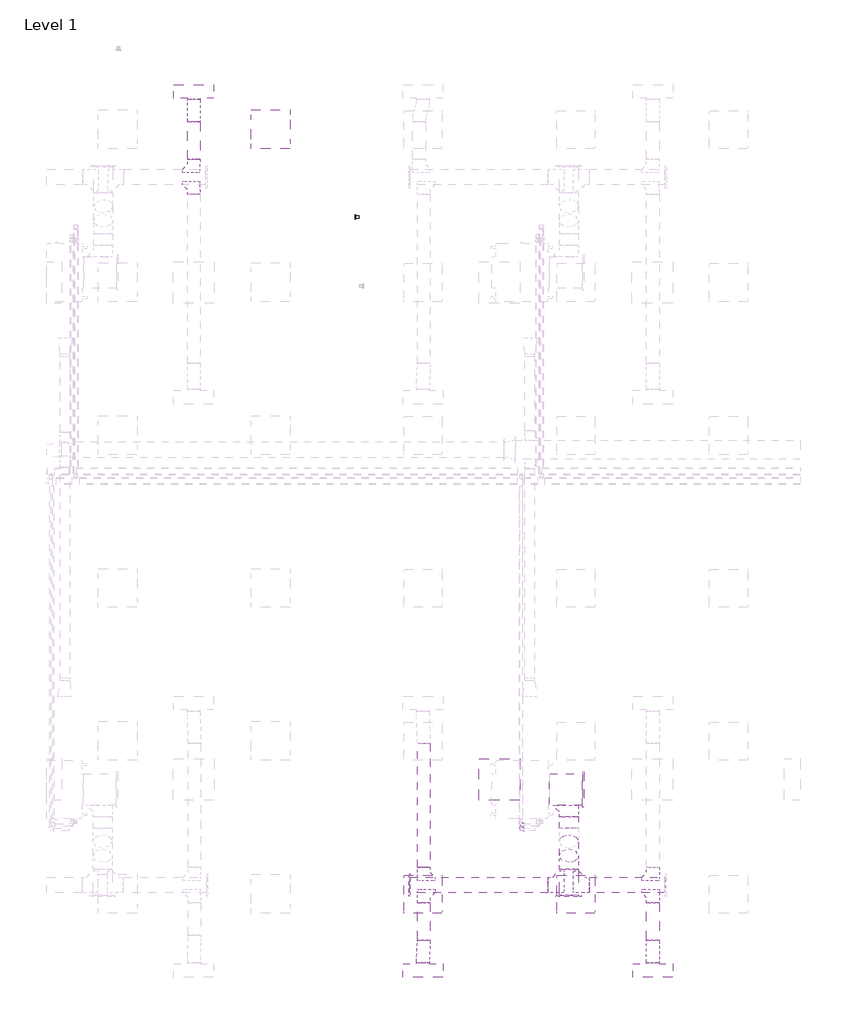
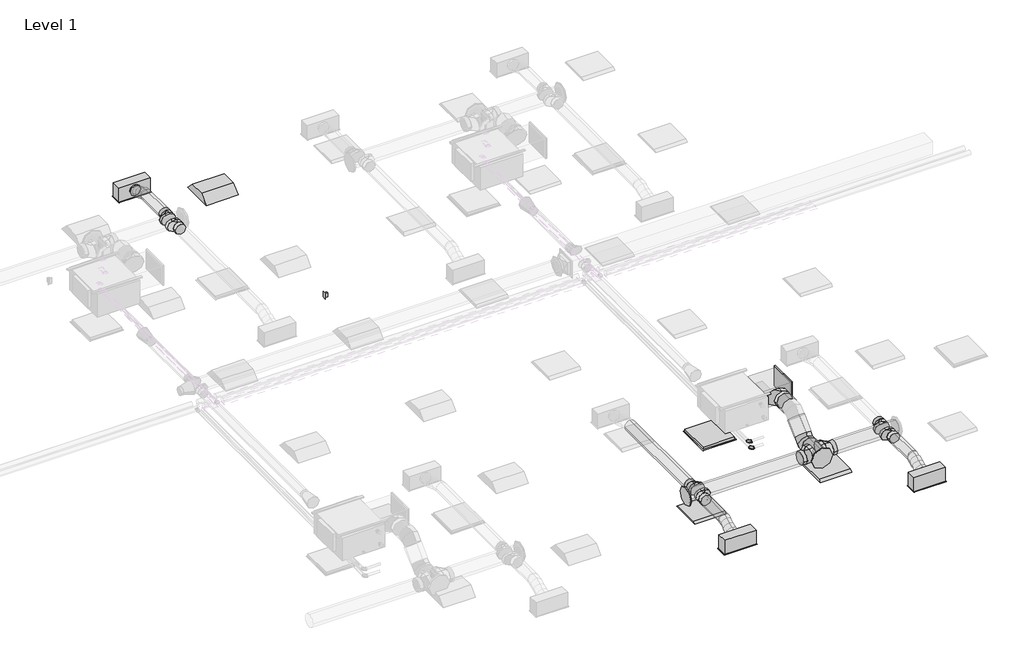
# One storey, part 6 of 30: 13 duct fittings, 13 duct segments, 4 air terminals, 3 light fixtures, 2 pipe fittings, 1 proxy.
"""IFC4 building model written with IfcOpenShell, lengths in millimetres."""

from ifc_helpers import new_model, si_unit, point, frame, frame_2d, origin, place, context, project, spatial, polyline, circle_curve, ellipse_curve, trimmed, segment, composite_curve, outline, extrude, transform, mapped, element, save
from ifc_brep_helpers import plane_surface, cylinder_surface, advanced_brep
from components import return_grille_rectangular_hosted_standard_7b12617c, supply_diffuser_with_plenum_linear_slot_hosted_2b730595, duplex_receptacle_standard_367a9a66, dw144_rectangular_blank_end_standard_8fde7d16, dw144_round_blank_end_standard_f82b0856, dw144_round_blank_end_standard_9aa061e7, dw144_round_segmented_bend_slip_joint_standard_8b80c5ae, dw144_round_shoe_branch_slip_joint1_standard_2_15a2edd8, dw144_round_shoe_branch_slip_joint1_standard_2_559552f4, dw144_round_shoe_branch_slip_joint1_standard_2_7ba9e4ed, dw144_round_shoe_branch_slip_joint1_standard_2_67b64720, light_fixture_1c7c1157, plain_recessed_lighting_fixture_2x2_277_de26a1e5, elbow_threaded_gmi_standard_b4aa7741

model = new_model("IFC4")

# Units and contexts
model_context = context("Model", 3, world=origin())
ifc_project = project(units=[si_unit("LENGTHUNIT", "METRE", prefix="MILLI")], contexts=[model_context])

# Site, building, storey
site = spatial("IfcSite", under=ifc_project)
building = spatial("IfcBuilding", under=site)
storey = spatial("IfcBuildingStorey", under=building, Name="Level 1", Elevation=3900.0)

# Air terminals
placement = place(None, origin())
return_grille_rectangular_hosted_standard_shape = return_grille_rectangular_hosted_standard_7b12617c(model_context)
element("IfcAirTerminal", 1, ObjectType="Return Grille - Rectangular - Hosted : Standard", at=placement, inside=storey, context=model_context, shape_type="MappedRepresentation", body=[
    mapped(return_grille_rectangular_hosted_standard_shape, transform((17562.2000027, 3963.2000004, 6700.0), x_axis=(1.0, 0.0, 0.0), y_axis=(0.0, -1.0, 0.0), z_axis=(0.0, 0.0, -1.0))),
])
supply_diffuser_with_plenum_linear_slot_hosted_shape = supply_diffuser_with_plenum_linear_slot_hosted_2b730595(model_context)
element("IfcAirTerminal", 2, ObjectType="Supply Diffuser with Plenum - Linear Slot - Hosted : 24\" x 8\"-200 In Inlet  4-Slot", at=placement, inside=storey, context=model_context, shape_type="MappedRepresentation", body=[
    mapped(supply_diffuser_with_plenum_linear_slot_hosted_shape, transform((16362.2000027, 963.2000004, 6700.0), x_axis=(1.0, 0.0, 0.0), y_axis=(0.0, -1.0, 0.0), z_axis=(0.0, 0.0, -1.0))),
])
element("IfcAirTerminal", 3, ObjectType="Supply Diffuser with Plenum - Linear Slot - Hosted : 24\" x 8\"-200 In Inlet  4-Slot", at=placement, inside=storey, context=model_context, shape_type="MappedRepresentation", body=[
    mapped(supply_diffuser_with_plenum_linear_slot_hosted_shape, transform((19973.9000022, 963.2000004, 6700.0), x_axis=(1.0, 0.0, 0.0), y_axis=(0.0, -1.0, 0.0), z_axis=(0.0, 0.0, -1.0))),
])
element("IfcAirTerminal", 4, ObjectType="Supply Diffuser with Plenum - Linear Slot - Hosted : 24\" x 8\"-200 In Inlet  4-Slot", at=placement, inside=storey, context=model_context, shape_type="MappedRepresentation", body=[
    mapped(supply_diffuser_with_plenum_linear_slot_hosted_shape, transform((12762.2000027, 14763.2000004, 6700.0), x_axis=(-1.0, 0.0, 0.0), y_axis=(0.0, 1.0, 0.0), z_axis=(0.0, 0.0, -1.0))),
])

# Proxy
duplex_receptacle_standard_shape = duplex_receptacle_standard_367a9a66(model_context)
element("IfcBuildingElementProxy", 5, Name="Duplex Receptacle : Standard", ObjectType="Duplex Receptacle : Standard", at=placement, inside=storey, context=model_context, shape_type="MappedRepresentation", body=[
    mapped(duplex_receptacle_standard_shape, transform((15302.2000024, 12793.416336, 4966.8), x_axis=(0.0, -1.0, 0.0), y_axis=(0.0, 0.0, 1.0), z_axis=(-1.0, 0.0, 0.0))),
])

# Duct fittings
dw144_rectangular_blank_end_standard_shape = dw144_rectangular_blank_end_standard_8fde7d16(model_context)
element("IfcDuctFitting", 6, ObjectType="DW144 Rectangular Blank End : Standard", at=placement, inside=storey, context=model_context, shape_type="MappedRepresentation", body=[
    mapped(dw144_rectangular_blank_end_standard_shape, transform((18866.2561025, 3806.0000004, 7376.3911538), x_axis=(1.0, 0.0, 0.0), y_axis=(0.0, 1.0, 0.0), z_axis=(0.0, 0.0, 1.0))),
])
dw144_round_blank_end_standard_shape = dw144_round_blank_end_standard_f82b0856(model_context)
element("IfcDuctFitting", 7, ObjectType="DW144 Round Blank End : Standard", at=placement, inside=storey, context=model_context, shape_type="MappedRepresentation", body=[
    mapped(dw144_round_blank_end_standard_shape, transform((18651.4561025, 2142.9916128, 6972.2088531), x_axis=(0.0, -1.0, 0.0), y_axis=(1.0, 0.0, 0.0), z_axis=(0.0, 0.0, 1.0))),
])
dw144_round_blank_end_standard_2_shape = dw144_round_blank_end_standard_9aa061e7(model_context)
element("IfcDuctFitting", 8, ObjectType="DW144 Round Blank End : Standard", at=placement, inside=storey, context=model_context, shape_type="MappedRepresentation", body=[
    mapped(dw144_round_blank_end_standard_2_shape, transform((16161.4561025, 2306.5018192, 6972.2088531), x_axis=(-1.0, 0.0, 0.0), y_axis=(0.0, -1.0, 0.0), z_axis=(0.0, 0.0, 1.0))),
])
dw144_round_segmented_bend_slip_joint_standard_shape = dw144_round_segmented_bend_slip_joint_standard_8b80c5ae(model_context)
element("IfcDuctFitting", 9, ObjectType="DW144 Round Segmented Bend - Slip Joint : Standard", at=placement, inside=storey, context=model_context, shape_type="MappedRepresentation", body=[
    mapped(dw144_round_segmented_bend_slip_joint_standard_shape, transform((18651.4561025, 2678.6338536, 6972.2088531), x_axis=(0.0, -0.7071067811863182, -0.7071067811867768), y_axis=(0.0, 0.7071067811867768, -0.7071067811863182), z_axis=(1.0, 0.0, 0.0))),
])
dw144_round_shoe_branch_slip_joint1_standard_2_shape = dw144_round_shoe_branch_slip_joint1_standard_2_15a2edd8(model_context)
element("IfcDuctFitting", 10, ObjectType="DW144 Round Shoe Branch - Slip Joint1 : Standard 2", at=placement, inside=storey, context=model_context, shape_type="MappedRepresentation", body=[
    mapped(dw144_round_shoe_branch_slip_joint1_standard_2_shape, transform((12762.2000027, 13544.8981817, 6972.2088531), x_axis=(0.0, 1.0, 0.0), y_axis=(1.0, 0.0, 0.0), z_axis=(0.0, 0.0, -1.0))),
])
element("IfcDuctFitting", 11, ObjectType="DW144 Round Shoe Branch - Slip Joint1 : Standard 2", at=placement, inside=storey, context=model_context, shape_type="MappedRepresentation", body=[
    mapped(dw144_round_shoe_branch_slip_joint1_standard_2_shape, transform((12762.2000027, 13294.8981817, 6972.2088531), x_axis=(0.0, -1.0, 0.0), y_axis=(1.0, 0.0, 0.0), z_axis=(0.0, 0.0, 1.0))),
])
element("IfcDuctFitting", 12, ObjectType="DW144 Round Shoe Branch - Slip Joint1 : Standard 2", at=placement, inside=storey, context=model_context, shape_type="MappedRepresentation", body=[
    mapped(dw144_round_shoe_branch_slip_joint1_standard_2_shape, transform((16373.9000022, 2181.5018192, 6972.2088531), x_axis=(0.0, -1.0, 0.0), y_axis=(-1.0, 0.0, 0.0), z_axis=(0.0, 0.0, -1.0))),
])
element("IfcDuctFitting", 13, ObjectType="DW144 Round Shoe Branch - Slip Joint1 : Standard 2", at=placement, inside=storey, context=model_context, shape_type="MappedRepresentation", body=[
    mapped(dw144_round_shoe_branch_slip_joint1_standard_2_shape, transform((16373.9000022, 2431.5018192, 6972.2088531), x_axis=(0.0, 1.0, 0.0), y_axis=(-1.0, 0.0, 0.0), z_axis=(0.0, 0.0, 1.0))),
])
dw144_round_shoe_branch_slip_joint1_standard_2_2_shape = dw144_round_shoe_branch_slip_joint1_standard_2_559552f4(model_context)
element("IfcDuctFitting", 14, ObjectType="DW144 Round Shoe Branch - Slip Joint1 : Standard 2", at=placement, inside=storey, context=model_context, shape_type="MappedRepresentation", body=[
    mapped(dw144_round_shoe_branch_slip_joint1_standard_2_2_shape, transform((19973.9000022, 2181.5018192, 6972.2088531), x_axis=(0.0, -1.0, 0.0), y_axis=(-1.0, 0.0, 0.0), z_axis=(0.0, 0.0, -1.0))),
])
element("IfcDuctFitting", 15, ObjectType="DW144 Round Shoe Branch - Slip Joint1 : Standard 2", at=placement, inside=storey, context=model_context, shape_type="MappedRepresentation", body=[
    mapped(dw144_round_shoe_branch_slip_joint1_standard_2_2_shape, transform((19973.9000022, 2431.5018192, 6972.2088531), x_axis=(0.0, 1.0, 0.0), y_axis=(-1.0, 0.0, 0.0), z_axis=(0.0, 0.0, 1.0))),
])
dw144_round_shoe_branch_slip_joint1_standard_2_3_shape = dw144_round_shoe_branch_slip_joint1_standard_2_7ba9e4ed(model_context)
element("IfcDuctFitting", 16, ObjectType="DW144 Round Shoe Branch - Slip Joint1 : Standard 2", at=placement, inside=storey, context=model_context, shape_type="MappedRepresentation", body=[
    mapped(dw144_round_shoe_branch_slip_joint1_standard_2_3_shape, transform((18651.4561025, 3556.0000004, 7369.575), x_axis=(0.0, -1.0, 0.0), y_axis=(-1.0, 0.0, 0.0), z_axis=(0.0, 0.0, -1.0))),
])
dw144_round_shoe_branch_slip_joint1_standard_2_4_shape = dw144_round_shoe_branch_slip_joint1_standard_2_67b64720(model_context)
element("IfcDuctFitting", 17, ObjectType="DW144 Round Shoe Branch - Slip Joint1 : Standard 2", at=placement, inside=storey, context=model_context, shape_type="MappedRepresentation", body=[
    mapped(dw144_round_shoe_branch_slip_joint1_standard_2_4_shape, transform((18801.4561025, 2306.5018192, 6972.2088531), x_axis=(1.0, 0.0, 0.0), y_axis=(0.0, -1.0, 0.0), z_axis=(0.0, 0.0, -1.0))),
])
element("IfcDuctFitting", 18, ObjectType="DW144 Round Shoe Branch - Slip Joint1 : Standard 2", at=placement, inside=storey, context=model_context, shape_type="MappedRepresentation", body=[
    mapped(dw144_round_shoe_branch_slip_joint1_standard_2_4_shape, transform((18501.4561025, 2306.5018192, 6972.2088531), x_axis=(-1.0, 0.0, 0.0), y_axis=(0.0, -1.0, 0.0), z_axis=(0.0, 0.0, 1.0))),
])

# Duct segments
element("IfcDuctSegment", 19, ObjectType="DW144 Flanged Med Radius Bend / Shoe Branch", at=placement, inside=storey, context=model_context, shape_type="SweptSolid", body=[
    extrude(outline(polyline([(18346.6561025, 3556.0000004), (18346.6561025, 4056.0000004), (18866.2561025, 4056.0000004), (18866.2561025, 3556.0000004), (18346.6561025, 3556.0000004)])), frame((0.0, 0.0, 7201.3911538), z_axis=(0.0, 0.0, 1.0), x_axis=(1.0, 0.0, 0.0)), (0.0, 0.0, 1.0), 350.0),
])
element("IfcDuctSegment", 20, ObjectType="DW144 Segmented Bend / Shoe Branch", at=placement, inside=storey, context=model_context, shape_type="SweptSolid", body=[
    extrude(outline(composite_curve([segment(trimmed(circle_curve(frame_2d((6972.2088531, 12762.2000027)), 100.0), [point((6972.2088531, 12862.2000027))], [point((7072.2088531, 12762.2000027))], False, "CARTESIAN"), True, "CONTINUOUS"), segment(trimmed(circle_curve(frame_2d((6972.2088531, 12762.2000027)), 100.0), [point((7072.2088531, 12762.2000027))], [point((6972.2088531, 12662.2000027))], False, "CARTESIAN"), True, "CONTINUOUS"), segment(trimmed(circle_curve(frame_2d((6972.2088531, 12762.2000027)), 100.0), [point((6972.2088531, 12662.2000027))], [point((6872.2088531, 12762.2000027))], False, "CARTESIAN"), True, "CONTINUOUS"), segment(trimmed(circle_curve(frame_2d((6972.2088531, 12762.2000027)), 100.0), [point((6872.2088531, 12762.2000027))], [point((6972.2088531, 12862.2000027))], False, "CARTESIAN"), True, "CONTINUOUS")], self_intersect=False)), frame((0.0, 13694.8981817, 0.0), z_axis=(0.0, 1.0, 0.0), x_axis=(0.0, 0.0, 1.0)), (0.0, 0.0, 1.0), 590.0),
])
element("IfcDuctSegment", 21, ObjectType="DW144 Segmented Bend / Shoe Branch", at=placement, inside=storey, context=model_context, shape_type="SweptSolid", body=[
    extrude(outline(composite_curve([segment(trimmed(circle_curve(frame_2d((7369.575, 18651.4561025)), 150.0), [point((7369.575, 18501.4561025))], [point((7219.575, 18651.4561025))], False, "CARTESIAN"), True, "CONTINUOUS"), segment(trimmed(circle_curve(frame_2d((7369.575, 18651.4561025)), 150.0), [point((7219.575, 18651.4561025))], [point((7369.575, 18801.4561025))], False, "CARTESIAN"), True, "CONTINUOUS"), segment(trimmed(circle_curve(frame_2d((7369.575, 18651.4561025)), 150.0), [point((7369.575, 18801.4561025))], [point((7519.575, 18651.4561025))], False, "CARTESIAN"), True, "CONTINUOUS"), segment(trimmed(circle_curve(frame_2d((7369.575, 18651.4561025)), 150.0), [point((7519.575, 18651.4561025))], [point((7369.575, 18501.4561025))], False, "CARTESIAN"), True, "CONTINUOUS")], self_intersect=False)), frame((0.0, 3200.2640691, 0.0), z_axis=(0.0, 1.0, 0.0), x_axis=(0.0, 0.0, 1.0)), (0.0, 0.0, 1.0), 180.7359313),
])
element("IfcDuctSegment", 22, ObjectType="DW144 Segmented Bend / Shoe Branch", at=placement, inside=storey, context=model_context, shape_type="SweptSolid", body=[
    extrude(outline(composite_curve([segment(trimmed(circle_curve(frame_2d((6972.2088531, 18651.4561025)), 150.0), [point((6972.2088531, 18501.4561025))], [point((6822.2088531, 18651.4561025))], False, "CARTESIAN"), True, "CONTINUOUS"), segment(trimmed(circle_curve(frame_2d((6972.2088531, 18651.4561025)), 150.0), [point((6822.2088531, 18651.4561025))], [point((6972.2088531, 18801.4561025))], False, "CARTESIAN"), True, "CONTINUOUS"), segment(trimmed(circle_curve(frame_2d((6972.2088531, 18651.4561025)), 150.0), [point((6972.2088531, 18801.4561025))], [point((7122.2088531, 18651.4561025))], False, "CARTESIAN"), True, "CONTINUOUS"), segment(trimmed(circle_curve(frame_2d((6972.2088531, 18651.4561025)), 150.0), [point((7122.2088531, 18651.4561025))], [point((6972.2088531, 18501.4561025))], False, "CARTESIAN"), True, "CONTINUOUS")], self_intersect=False)), frame((0.0, 2142.9916128, 0.0), z_axis=(0.0, 1.0, 0.0), x_axis=(0.0, 0.0, 1.0)), (0.0, 0.0, 1.0), 411.3781721),
])
element("IfcDuctSegment", 23, ObjectType="DW144 Segmented Bend / Shoe Branch", at=placement, inside=storey, context=model_context, shape_type="SweptSolid", body=[
    extrude(outline(composite_curve([segment(trimmed(circle_curve(frame_2d((0.0, -150.0)), 150.0), [point((-150.0, -150.0))], [point((0.0, 0.0))], False, "CARTESIAN"), True, "CONTINUOUS"), segment(trimmed(circle_curve(frame_2d((0.0, -150.0)), 150.0), [point((0.0, 0.0))], [point((150.0, -150.0))], False, "CARTESIAN"), True, "CONTINUOUS"), segment(trimmed(circle_curve(frame_2d((0.0, -150.0)), 150.0), [point((150.0, -150.0))], [point((0.0, -300.0))], False, "CARTESIAN"), True, "CONTINUOUS"), segment(trimmed(circle_curve(frame_2d((0.0, -150.0)), 150.0), [point((0.0, -300.0))], [point((-150.0, -150.0))], False, "CARTESIAN"), True, "CONTINUOUS")], self_intersect=False)), frame((18651.4561025, 2872.5678364, 6954.0108016), z_axis=(0.0, 0.7071067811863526, 0.7071067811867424), x_axis=(1.0, 0.0, 0.0)), (0.0, 0.0, 1.0), 313.4324567),
])
element("IfcDuctSegment", 24, ObjectType="DW144 Segmented Bend / Shoe Branch", at=placement, inside=storey, context=model_context, shape_type="SweptSolid", body=[
    extrude(outline(composite_curve([segment(trimmed(circle_curve(frame_2d((2306.5018192, 6972.2088531)), 125.0), [point((2181.5018192, 6972.2088531))], [point((2306.5018192, 7097.2088531))], False, "CARTESIAN"), True, "CONTINUOUS"), segment(trimmed(circle_curve(frame_2d((2306.5018192, 6972.2088531)), 125.0), [point((2306.5018192, 7097.2088531))], [point((2431.5018192, 6972.2088531))], False, "CARTESIAN"), True, "CONTINUOUS"), segment(trimmed(circle_curve(frame_2d((2306.5018192, 6972.2088531)), 125.0), [point((2431.5018192, 6972.2088531))], [point((2306.5018192, 6847.2088531))], False, "CARTESIAN"), True, "CONTINUOUS"), segment(trimmed(circle_curve(frame_2d((2306.5018192, 6972.2088531)), 125.0), [point((2306.5018192, 6847.2088531))], [point((2181.5018192, 6972.2088531))], False, "CARTESIAN"), True, "CONTINUOUS")], self_intersect=False)), frame((18976.4561025, 0.0, 0.0), z_axis=(1.0, 0.0, 0.0), x_axis=(0.0, 1.0, 0.0)), (0.0, 0.0, 1.0), 1185.0),
])
element("IfcDuctSegment", 25, ObjectType="DW144 Segmented Bend / Shoe Branch", at=placement, inside=storey, context=model_context, shape_type="SweptSolid", body=[
    extrude(outline(composite_curve([segment(trimmed(circle_curve(frame_2d((2306.5018192, 6972.2088531)), 125.0), [point((2431.5018192, 6972.2088531))], [point((2306.5018192, 6847.2088531))], False, "CARTESIAN"), True, "CONTINUOUS"), segment(trimmed(circle_curve(frame_2d((2306.5018192, 6972.2088531)), 125.0), [point((2306.5018192, 6847.2088531))], [point((2181.5018192, 6972.2088531))], False, "CARTESIAN"), True, "CONTINUOUS"), segment(trimmed(circle_curve(frame_2d((2306.5018192, 6972.2088531)), 125.0), [point((2181.5018192, 6972.2088531))], [point((2306.5018192, 7097.2088531))], False, "CARTESIAN"), True, "CONTINUOUS"), segment(trimmed(circle_curve(frame_2d((2306.5018192, 6972.2088531)), 125.0), [point((2306.5018192, 7097.2088531))], [point((2431.5018192, 6972.2088531))], False, "CARTESIAN"), True, "CONTINUOUS")], self_intersect=False)), frame((16161.4561025, 0.0, 0.0), z_axis=(1.0, 0.0, 0.0), x_axis=(0.0, 1.0, 0.0)), (0.0, 0.0, 1.0), 2165.0),
])
element("IfcDuctSegment", 26, ObjectType="DW144 Segmented Bend / Shoe Branch", at=placement, inside=storey, context=model_context, shape_type="SweptSolid", body=[
    extrude(outline(composite_curve([segment(trimmed(circle_curve(frame_2d((6972.2088531, 19973.9000022)), 100.0), [point((6972.2088531, 19873.9000022))], [point((6872.2088531, 19973.9000022))], False, "CARTESIAN"), True, "CONTINUOUS"), segment(trimmed(circle_curve(frame_2d((6972.2088531, 19973.9000022)), 100.0), [point((6872.2088531, 19973.9000022))], [point((6972.2088531, 20073.9000022))], False, "CARTESIAN"), True, "CONTINUOUS"), segment(trimmed(circle_curve(frame_2d((6972.2088531, 19973.9000022)), 100.0), [point((6972.2088531, 20073.9000022))], [point((7072.2088531, 19973.9000022))], False, "CARTESIAN"), True, "CONTINUOUS"), segment(trimmed(circle_curve(frame_2d((6972.2088531, 19973.9000022)), 100.0), [point((7072.2088531, 19973.9000022))], [point((6972.2088531, 19873.9000022))], False, "CARTESIAN"), True, "CONTINUOUS")], self_intersect=False)), frame((0.0, 1441.5018192, 0.0), z_axis=(0.0, 1.0, 0.0), x_axis=(0.0, 0.0, 1.0)), (0.0, 0.0, 1.0), 590.0),
])
element("IfcDuctSegment", 27, ObjectType="DW144 Segmented Bend / Shoe Branch", at=placement, inside=storey, context=model_context, shape_type="SweptSolid", body=[
    extrude(outline(composite_curve([segment(trimmed(circle_curve(frame_2d((6972.2088531, 16373.9000022)), 100.0), [point((6972.2088531, 16473.9000022))], [point((7072.2088531, 16373.9000022))], False, "CARTESIAN"), True, "CONTINUOUS"), segment(trimmed(circle_curve(frame_2d((6972.2088531, 16373.9000022)), 100.0), [point((7072.2088531, 16373.9000022))], [point((6972.2088531, 16273.9000022))], False, "CARTESIAN"), True, "CONTINUOUS"), segment(trimmed(circle_curve(frame_2d((6972.2088531, 16373.9000022)), 100.0), [point((6972.2088531, 16273.9000022))], [point((6872.2088531, 16373.9000022))], False, "CARTESIAN"), True, "CONTINUOUS"), segment(trimmed(circle_curve(frame_2d((6972.2088531, 16373.9000022)), 100.0), [point((6872.2088531, 16373.9000022))], [point((6972.2088531, 16473.9000022))], False, "CARTESIAN"), True, "CONTINUOUS")], self_intersect=False)), frame((0.0, 1441.5018192, 0.0), z_axis=(0.0, 1.0, 0.0), x_axis=(0.0, 0.0, 1.0)), (0.0, 0.0, 1.0), 590.0),
])
element("IfcDuctSegment", 28, ObjectType="DW144 Segmented Bend / Shoe Branch", at=placement, inside=storey, context=model_context, shape_type="SweptSolid", body=[
    extrude(outline(composite_curve([segment(trimmed(circle_curve(frame_2d((6972.2088531, 16373.9000022)), 100.0), [point((6972.2088531, 16473.9000022))], [point((7072.2088531, 16373.9000022))], False, "CARTESIAN"), True, "CONTINUOUS"), segment(trimmed(circle_curve(frame_2d((6972.2088531, 16373.9000022)), 100.0), [point((7072.2088531, 16373.9000022))], [point((6972.2088531, 16273.9000022))], False, "CARTESIAN"), True, "CONTINUOUS"), segment(trimmed(circle_curve(frame_2d((6972.2088531, 16373.9000022)), 100.0), [point((6972.2088531, 16273.9000022))], [point((6872.2088531, 16373.9000022))], False, "CARTESIAN"), True, "CONTINUOUS"), segment(trimmed(circle_curve(frame_2d((6972.2088531, 16373.9000022)), 100.0), [point((6872.2088531, 16373.9000022))], [point((6972.2088531, 16473.9000022))], False, "CARTESIAN"), True, "CONTINUOUS")], self_intersect=False)), frame((0.0, 2581.5018192, 0.0), z_axis=(0.0, 1.0, 0.0), x_axis=(0.0, 0.0, 1.0)), (0.0, 0.0, 1.0), 1950.0),
])
element("IfcDuctSegment", 29, ObjectType="Flex - Round", at=placement, inside=storey, context=model_context, shape_type="AdvancedBrep", body=[
    advanced_brep(
    [(12662.2000027, 14284.8981817, 6972.2088531), (12762.2000027, 14284.8981817, 6872.2088531), (12862.2000027, 14284.8981817, 6972.2088531), (12762.2000027, 14284.8981817, 7072.2088531), (12662.2000027, 14305.016086, 6972.2088531), (12762.2000027, 14291.9994573, 6872.2088531), (12862.2000027, 14305.016086, 6972.2088531), (12762.2000027, 14318.0327147, 7072.2088531), (12662.2000027, 14636.2000004, 6854.4), (12762.2000027, 14636.2000004, 6954.4), (12862.2000027, 14636.2000004, 6854.4), (12762.2000027, 14636.2000004, 6754.4), (12662.2000027, 14374.5262041, 6953.8012198), (12762.2000027, 14340.1488087, 6859.4579669), (12862.2000027, 14374.5262041, 6953.8012198), (12762.2000027, 14408.9035994, 7048.1444727), (12662.2000027, 14460.549091, 6913.3044266), (12762.2000027, 14417.9560975, 6822.8288116), (12862.2000027, 14460.549091, 6913.3044266), (12762.2000027, 14503.1420846, 7003.7800415), (12662.2000027, 14546.571978, 6872.8076333), (12762.2000027, 14512.1945826, 6778.4643804), (12862.2000027, 14546.571978, 6872.8076333), (12762.2000027, 14580.9493734, 6967.1508862), (12662.2000027, 14616.0820961, 6854.4), (12762.2000027, 14603.0654674, 6754.4), (12862.2000027, 14616.0820961, 6854.4), (12762.2000027, 14629.0987248, 6954.4)],
    [
        (0, 1, circle_curve(frame((12762.2000027, 14284.8981817, 6972.2088531), z_axis=(0.0, -1.0, 0.0), x_axis=(-1.0, 0.0, 0.0)), 100.0)),
        (1, 2, circle_curve(frame((12762.2000027, 14284.8981817, 6972.2088531), z_axis=(0.0, -1.0, 0.0), x_axis=(-1.0, 0.0, 0.0)), 100.0)),
        (2, 3, circle_curve(frame((12762.2000027, 14284.8981817, 6972.2088531), z_axis=(0.0, -1.0, 0.0), x_axis=(-1.0, 0.0, 0.0)), 100.0)),
        (3, 0, circle_curve(frame((12762.2000027, 14284.8981817, 6972.2088531), z_axis=(0.0, -1.0, 0.0), x_axis=(-1.0, 0.0, 0.0)), 100.0)),
        (0, 4),
        (4, 5, ellipse_curve(frame((12762.2000027, 14305.016086, 6972.2088531), z_axis=(0.0, -0.9916345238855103, 0.12907738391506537), x_axis=(0.0, -0.1290773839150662, -0.9916345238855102)), 100.8436048, 100.0)),
        (5, 1),
        (5, 6, ellipse_curve(frame((12762.2000027, 14305.016086, 6972.2088531), z_axis=(0.0, -0.9916345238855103, 0.12907738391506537), x_axis=(0.0, -0.1290773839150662, -0.9916345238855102)), 100.8436048, 100.0)),
        (6, 2),
        (6, 7, ellipse_curve(frame((12762.2000027, 14305.016086, 6972.2088531), z_axis=(0.0, -0.9916345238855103, 0.12907738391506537), x_axis=(0.0, -0.1290773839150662, -0.9916345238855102)), 100.8436048, 100.0)),
        (7, 3),
        (7, 4, ellipse_curve(frame((12762.2000027, 14305.016086, 6972.2088531), z_axis=(0.0, -0.9916345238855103, 0.12907738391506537), x_axis=(0.0, -0.1290773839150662, -0.9916345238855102)), 100.8436048, 100.0)),
        (8, 9, circle_curve(frame((12762.2000027, 14636.2000004, 6854.4), z_axis=(0.0, 1.0, 0.0), x_axis=(-1.0, 0.0, 0.0)), 100.0)),
        (9, 10, circle_curve(frame((12762.2000027, 14636.2000004, 6854.4), z_axis=(0.0, 1.0, 0.0), x_axis=(-1.0, 0.0, 0.0)), 100.0)),
        (10, 11, circle_curve(frame((12762.2000027, 14636.2000004, 6854.4), z_axis=(0.0, 1.0, 0.0), x_axis=(-1.0, 0.0, 0.0)), 100.0)),
        (11, 8, circle_curve(frame((12762.2000027, 14636.2000004, 6854.4), z_axis=(0.0, 1.0, 0.0), x_axis=(-1.0, 0.0, 0.0)), 100.0)),
        (4, 12),
        (12, 13, ellipse_curve(frame((12762.2000027, 14374.5262041, 6953.8012198), z_axis=(0.0, -0.9395668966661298, 0.3423653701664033), x_axis=(0.0, -0.34236537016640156, -0.9395668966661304)), 100.411427, 100.0)),
        (13, 5),
        (13, 14, ellipse_curve(frame((12762.2000027, 14374.5262041, 6953.8012198), z_axis=(0.0, -0.9395668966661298, 0.3423653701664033), x_axis=(0.0, -0.34236537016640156, -0.9395668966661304)), 100.411427, 100.0)),
        (14, 6),
        (14, 15, ellipse_curve(frame((12762.2000027, 14374.5262041, 6953.8012198), z_axis=(0.0, -0.9395668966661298, 0.3423653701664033), x_axis=(0.0, -0.34236537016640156, -0.9395668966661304)), 100.411427, 100.0)),
        (15, 7),
        (15, 12, ellipse_curve(frame((12762.2000027, 14374.5262041, 6953.8012198), z_axis=(0.0, -0.9395668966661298, 0.3423653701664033), x_axis=(0.0, -0.34236537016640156, -0.9395668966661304)), 100.411427, 100.0)),
        (12, 16),
        (16, 17, circle_curve(frame((12762.2000027, 14460.549091, 6913.3044266), z_axis=(0.0, -0.9047561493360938, 0.42592993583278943), x_axis=(-1.0, 0.0, 0.0)), 100.0)),
        (17, 13),
        (17, 18, circle_curve(frame((12762.2000027, 14460.549091, 6913.3044266), z_axis=(0.0, -0.9047561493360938, 0.42592993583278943), x_axis=(-1.0, 0.0, 0.0)), 100.0)),
        (18, 14),
        (18, 19, circle_curve(frame((12762.2000027, 14460.549091, 6913.3044266), z_axis=(0.0, -0.9047561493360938, 0.42592993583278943), x_axis=(-1.0, 0.0, 0.0)), 100.0)),
        (19, 15),
        (19, 16, circle_curve(frame((12762.2000027, 14460.549091, 6913.3044266), z_axis=(0.0, -0.9047561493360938, 0.42592993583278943), x_axis=(-1.0, 0.0, 0.0)), 100.0)),
        (16, 20),
        (20, 21, ellipse_curve(frame((12762.2000027, 14546.571978, 6872.8076333), z_axis=(0.0, -0.9395668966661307, 0.34236537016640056), x_axis=(0.0, 0.3423653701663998, 0.9395668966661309)), 100.411427, 100.0)),
        (21, 17),
        (21, 22, ellipse_curve(frame((12762.2000027, 14546.571978, 6872.8076333), z_axis=(0.0, -0.9395668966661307, 0.34236537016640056), x_axis=(0.0, 0.3423653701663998, 0.9395668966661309)), 100.411427, 100.0)),
        (22, 18),
        (22, 23, ellipse_curve(frame((12762.2000027, 14546.571978, 6872.8076333), z_axis=(0.0, -0.9395668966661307, 0.34236537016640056), x_axis=(0.0, 0.3423653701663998, 0.9395668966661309)), 100.411427, 100.0)),
        (23, 19),
        (23, 20, ellipse_curve(frame((12762.2000027, 14546.571978, 6872.8076333), z_axis=(0.0, -0.9395668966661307, 0.34236537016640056), x_axis=(0.0, 0.3423653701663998, 0.9395668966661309)), 100.411427, 100.0)),
        (20, 24),
        (24, 25, ellipse_curve(frame((12762.2000027, 14616.0820961, 6854.4), z_axis=(0.0, -0.9916345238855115, 0.12907738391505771), x_axis=(0.0, 0.12907738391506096, 0.9916345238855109)), 100.8436048, 100.0)),
        (25, 21),
        (25, 26, ellipse_curve(frame((12762.2000027, 14616.0820961, 6854.4), z_axis=(0.0, -0.9916345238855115, 0.12907738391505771), x_axis=(0.0, 0.12907738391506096, 0.9916345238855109)), 100.8436048, 100.0)),
        (26, 22),
        (26, 27, ellipse_curve(frame((12762.2000027, 14616.0820961, 6854.4), z_axis=(0.0, -0.9916345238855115, 0.12907738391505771), x_axis=(0.0, 0.12907738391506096, 0.9916345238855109)), 100.8436048, 100.0)),
        (27, 23),
        (27, 24, ellipse_curve(frame((12762.2000027, 14616.0820961, 6854.4), z_axis=(0.0, -0.9916345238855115, 0.12907738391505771), x_axis=(0.0, 0.12907738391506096, 0.9916345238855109)), 100.8436048, 100.0)),
        (24, 8),
        (11, 25),
        (10, 26),
        (9, 27),
    ],
    [
        plane_surface(frame((12662.2000027, 14284.8981817, 6972.2088531), z_axis=(0.0, -1.0, 0.0), x_axis=(0.0, 0.0, 1.0))),
        cylinder_surface(frame((12762.2000027, 14284.8981817, 6972.2088531), z_axis=(0.0, -1.0, 0.0), x_axis=(-1.0, 0.0, 0.0)), 100.0),
        plane_surface(frame((12662.2000027, 14636.2000004, 6854.4), z_axis=(0.0, 1.0, 0.0), x_axis=(0.0, 0.0, 1.0))),
        cylinder_surface(frame((12762.2000027, 14305.016086, 6972.2088531), z_axis=(0.0, -0.9666780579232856, 0.25599518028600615), x_axis=(-1.0, 0.0, 0.0)), 100.0),
        cylinder_surface(frame((12762.2000027, 14374.5262041, 6953.8012198), z_axis=(0.0, -0.9047561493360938, 0.42592993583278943), x_axis=(-1.0, 0.0, 0.0)), 100.0),
        cylinder_surface(frame((12762.2000027, 14460.549091, 6913.3044266), z_axis=(0.0, -0.9047561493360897, 0.42592993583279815), x_axis=(-1.0, 0.0, 0.0)), 100.0),
        cylinder_surface(frame((12762.2000027, 14546.571978, 6872.8076333), z_axis=(0.0, -0.9666780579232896, 0.2559951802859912), x_axis=(-1.0, 0.0, 0.0)), 100.0),
        cylinder_surface(frame((12762.2000027, 14616.0820961, 6854.4), z_axis=(0.0, -1.0, 0.0), x_axis=(-1.0, 0.0, 0.0)), 100.0),
    ],
    [
        (0, [[1, 2, 3, 4]]),
        (1, [[-1, 5, 6, 7]]),
        (1, [[-2, -7, 8, 9]]),
        (1, [[-3, -9, 10, 11]]),
        (1, [[-4, -11, 12, -5]]),
        (2, [[13, 14, 15, 16]]),
        (3, [[-6, 17, 18, 19]]),
        (3, [[-8, -19, 20, 21]]),
        (3, [[-10, -21, 22, 23]]),
        (3, [[-12, -23, 24, -17]]),
        (4, [[-18, 25, 26, 27]]),
        (4, [[-20, -27, 28, 29]]),
        (4, [[-22, -29, 30, 31]]),
        (4, [[-24, -31, 32, -25]]),
        (5, [[-26, 33, 34, 35]]),
        (5, [[-28, -35, 36, 37]]),
        (5, [[-30, -37, 38, 39]]),
        (5, [[-32, -39, 40, -33]]),
        (6, [[-34, 41, 42, 43]]),
        (6, [[-36, -43, 44, 45]]),
        (6, [[-38, -45, 46, 47]]),
        (6, [[-40, -47, 48, -41]]),
        (7, [[-42, 49, -16, 50]]),
        (7, [[-44, -50, -15, 51]]),
        (7, [[-46, -51, -14, 52]]),
        (7, [[-48, -52, -13, -49]]),
    ],
),
])
element("IfcDuctSegment", 30, ObjectType="Flex - Round", at=placement, inside=storey, context=model_context, shape_type="AdvancedBrep", body=[
    advanced_brep(
    [(16473.9000022, 1441.5018192, 6972.2088531), (16373.9000022, 1441.5018192, 6872.2088531), (16273.9000022, 1441.5018192, 6972.2088531), (16373.9000022, 1441.5018192, 7072.2088531), (16473.9000022, 1420.0995917, 6972.2088531), (16373.9000022, 1434.401614, 6872.2088531), (16273.9000022, 1422.6837186, 6972.2088531), (16373.9000022, 1408.3816962, 7072.2088531), (16462.2000027, 1090.2000004, 6854.4), (16362.2000027, 1090.2000004, 6954.4), (16262.2000027, 1090.2000004, 6854.4), (16362.2000027, 1090.2000004, 6754.4), (16472.0161428, 1348.4444846, 6953.2400219), (16372.6330752, 1386.2123534, 6859.4519962), (16272.1276118, 1355.2684822, 6954.3624177), (16371.5106794, 1317.5006134, 7048.1504435), (16467.9561574, 1261.6239384, 6912.3594887), (16368.9949403, 1308.4128474, 6822.8191318), (16268.1438475, 1270.0778812, 6914.2493644), (16367.1050646, 1223.2889723, 7003.7897213), (16463.9723931, 1176.4333374, 6872.2464354), (16364.5893255, 1214.2012062, 6778.4584097), (16264.0838621, 1183.257335, 6873.3688312), (16363.4669297, 1145.4894662, 6967.1568569), (16462.2000027, 1109.0181011, 6854.4), (16362.2000027, 1123.3201234, 6754.4), (16262.2000027, 1111.602228, 6854.4), (16362.2000027, 1097.3002057, 6954.4)],
    [
        (0, 1, circle_curve(frame((16373.9000022, 1441.5018192, 6972.2088531), z_axis=(0.0, 1.0, 0.0), x_axis=(1.0, 0.0, 0.0)), 100.0)),
        (1, 2, circle_curve(frame((16373.9000022, 1441.5018192, 6972.2088531), z_axis=(0.0, 1.0, 0.0), x_axis=(1.0, 0.0, 0.0)), 100.0)),
        (2, 3, circle_curve(frame((16373.9000022, 1441.5018192, 6972.2088531), z_axis=(0.0, 1.0, 0.0), x_axis=(1.0, 0.0, 0.0)), 100.0)),
        (3, 0, circle_curve(frame((16373.9000022, 1441.5018192, 6972.2088531), z_axis=(0.0, 1.0, 0.0), x_axis=(1.0, 0.0, 0.0)), 100.0)),
        (0, 4),
        (4, 5, ellipse_curve(frame((16373.9000022, 1421.3916551, 6972.2088531), z_axis=(0.01281160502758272, 0.9915616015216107, 0.12900175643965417), x_axis=(-0.09799329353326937, 0.1296363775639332, -0.9867075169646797)), 100.8510211, 100.0)),
        (5, 1),
        (5, 6, ellipse_curve(frame((16373.9000022, 1421.3916551, 6972.2088531), z_axis=(0.01281160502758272, 0.9915616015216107, 0.12900175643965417), x_axis=(-0.09799329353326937, 0.1296363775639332, -0.9867075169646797)), 100.8510211, 100.0)),
        (6, 2),
        (6, 7, ellipse_curve(frame((16373.9000022, 1421.3916551, 6972.2088531), z_axis=(0.01281160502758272, 0.9915616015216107, 0.12900175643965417), x_axis=(-0.09799329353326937, 0.1296363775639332, -0.9867075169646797)), 100.8510211, 100.0)),
        (7, 3),
        (7, 4, ellipse_curve(frame((16373.9000022, 1421.3916551, 6972.2088531), z_axis=(0.01281160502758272, 0.9915616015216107, 0.12900175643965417), x_axis=(-0.09799329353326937, 0.1296363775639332, -0.9867075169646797)), 100.8510211, 100.0)),
        (8, 9, circle_curve(frame((16362.2000027, 1090.2000004, 6854.4), z_axis=(0.0, -1.0, 0.0), x_axis=(1.0, 0.0, 0.0)), 100.0)),
        (9, 10, circle_curve(frame((16362.2000027, 1090.2000004, 6854.4), z_axis=(0.0, -1.0, 0.0), x_axis=(1.0, 0.0, 0.0)), 100.0)),
        (10, 11, circle_curve(frame((16362.2000027, 1090.2000004, 6854.4), z_axis=(0.0, -1.0, 0.0), x_axis=(1.0, 0.0, 0.0)), 100.0)),
        (11, 8, circle_curve(frame((16362.2000027, 1090.2000004, 6854.4), z_axis=(0.0, -1.0, 0.0), x_axis=(1.0, 0.0, 0.0)), 100.0)),
        (4, 12),
        (12, 13, ellipse_curve(frame((16372.0718773, 1351.8564834, 6953.8012198), z_axis=(0.033978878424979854, 0.9390352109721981, 0.34213784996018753), x_axis=(-0.09280225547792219, 0.343820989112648, -0.9344382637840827)), 100.4152859, 100.0)),
        (13, 5),
        (13, 14, ellipse_curve(frame((16372.0718773, 1351.8564834, 6953.8012198), z_axis=(0.033978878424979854, 0.9390352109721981, 0.34213784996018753), x_axis=(-0.09280225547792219, 0.343820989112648, -0.9344382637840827)), 100.4152859, 100.0)),
        (14, 6),
        (14, 15, ellipse_curve(frame((16372.0718773, 1351.8564834, 6953.8012198), z_axis=(0.033978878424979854, 0.9390352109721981, 0.34213784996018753), x_axis=(-0.09280225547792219, 0.343820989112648, -0.9344382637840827)), 100.4152859, 100.0)),
        (15, 7),
        (15, 12, ellipse_curve(frame((16372.0718773, 1351.8564834, 6953.8012198), z_axis=(0.033978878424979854, 0.9390352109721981, 0.34213784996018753), x_axis=(-0.09280225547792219, 0.343820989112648, -0.9344382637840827)), 100.4152859, 100.0)),
        (12, 16),
        (16, 17, circle_curve(frame((16368.0500024, 1265.8509098, 6913.3044266), z_axis=(0.042269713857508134, 0.9039144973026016, 0.42561937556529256), x_axis=(0.9990615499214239, -0.04226971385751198, -0.009449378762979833)), 100.0)),
        (17, 13),
        (17, 18, circle_curve(frame((16368.0500024, 1265.8509098, 6913.3044266), z_axis=(0.042269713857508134, 0.9039144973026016, 0.42561937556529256), x_axis=(0.9990615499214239, -0.04226971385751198, -0.009449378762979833)), 100.0)),
        (18, 14),
        (18, 19, circle_curve(frame((16368.0500024, 1265.8509098, 6913.3044266), z_axis=(0.042269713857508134, 0.9039144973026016, 0.42561937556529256), x_axis=(0.9990615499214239, -0.04226971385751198, -0.009449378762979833)), 100.0)),
        (19, 15),
        (19, 16, circle_curve(frame((16368.0500024, 1265.8509098, 6913.3044266), z_axis=(0.042269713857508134, 0.9039144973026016, 0.42561937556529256), x_axis=(0.9990615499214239, -0.04226971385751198, -0.009449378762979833)), 100.0)),
        (16, 20),
        (20, 21, ellipse_curve(frame((16364.0281276, 1179.8453362, 6872.8076333), z_axis=(0.033978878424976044, 0.9390352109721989, 0.34213784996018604), x_axis=(0.09280225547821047, -0.34382098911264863, 0.9344382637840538)), 100.4152859, 100.0)),
        (21, 17),
        (21, 22, ellipse_curve(frame((16364.0281276, 1179.8453362, 6872.8076333), z_axis=(0.033978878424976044, 0.9390352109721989, 0.34213784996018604), x_axis=(0.09280225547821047, -0.34382098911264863, 0.9344382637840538)), 100.4152859, 100.0)),
        (22, 18),
        (22, 23, ellipse_curve(frame((16364.0281276, 1179.8453362, 6872.8076333), z_axis=(0.033978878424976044, 0.9390352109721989, 0.34213784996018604), x_axis=(0.09280225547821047, -0.34382098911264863, 0.9344382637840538)), 100.4152859, 100.0)),
        (23, 19),
        (23, 20, ellipse_curve(frame((16364.0281276, 1179.8453362, 6872.8076333), z_axis=(0.033978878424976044, 0.9390352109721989, 0.34213784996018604), x_axis=(0.09280225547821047, -0.34382098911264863, 0.9344382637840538)), 100.4152859, 100.0)),
        (20, 24),
        (24, 25, ellipse_curve(frame((16362.2000027, 1110.3101645, 6854.4), z_axis=(0.01281160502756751, 0.9915616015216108, 0.1290017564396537), x_axis=(0.09799329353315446, -0.12963637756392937, 0.9867075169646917)), 100.8510211, 100.0)),
        (25, 21),
        (25, 26, ellipse_curve(frame((16362.2000027, 1110.3101645, 6854.4), z_axis=(0.01281160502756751, 0.9915616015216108, 0.1290017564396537), x_axis=(0.09799329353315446, -0.12963637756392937, 0.9867075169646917)), 100.8510211, 100.0)),
        (26, 22),
        (26, 27, ellipse_curve(frame((16362.2000027, 1110.3101645, 6854.4), z_axis=(0.01281160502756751, 0.9915616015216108, 0.1290017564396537), x_axis=(0.09799329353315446, -0.12963637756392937, 0.9867075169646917)), 100.8510211, 100.0)),
        (27, 23),
        (27, 24, ellipse_curve(frame((16362.2000027, 1110.3101645, 6854.4), z_axis=(0.01281160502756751, 0.9915616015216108, 0.1290017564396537), x_axis=(0.09799329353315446, -0.12963637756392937, 0.9867075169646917)), 100.8510211, 100.0)),
        (24, 8),
        (11, 25),
        (10, 26),
        (9, 27),
    ],
    [
        plane_surface(frame((16273.9000022, 1441.5018192, 6972.2088531), z_axis=(0.0, 1.0, 0.0), x_axis=(0.0, 0.0, -1.0))),
        cylinder_surface(frame((16373.9000022, 1441.5018192, 6972.2088531), z_axis=(0.0, 1.0, 0.0), x_axis=(1.0, 0.0, 0.0)), 100.0),
        plane_surface(frame((16262.2000027, 1090.2000004, 6854.4), z_axis=(0.0, -1.0, 0.0), x_axis=(0.0, 0.0, -1.0))),
        cylinder_surface(frame((16373.9000022, 1421.3916551, 6972.2088531), z_axis=(0.02540699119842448, 0.9663888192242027, 0.25582637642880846), x_axis=(0.9996717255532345, -0.02540699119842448, -0.003305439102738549)), 100.0),
        cylinder_surface(frame((16372.0718773, 1351.8564834, 6953.8012198), z_axis=(0.042269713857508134, 0.9039144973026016, 0.42561937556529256), x_axis=(0.9990615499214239, -0.04226971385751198, -0.009449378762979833)), 100.0),
        cylinder_surface(frame((16368.0500024, 1265.8509098, 6913.3044266), z_axis=(0.042269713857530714, 0.9039144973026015, 0.4256193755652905), x_axis=(0.999061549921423, -0.04226971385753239, -0.009449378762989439)), 100.0),
        cylinder_surface(frame((16364.0281276, 1179.8453362, 6872.8076333), z_axis=(0.025406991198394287, 0.9663888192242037, 0.2558263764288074), x_axis=(0.9996717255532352, -0.025406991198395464, -0.0033054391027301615)), 100.0),
        cylinder_surface(frame((16362.2000027, 1110.3101645, 6854.4), z_axis=(0.0, 1.0, 0.0), x_axis=(1.0, 0.0, 0.0)), 100.0),
    ],
    [
        (0, [[1, 2, 3, 4]]),
        (1, [[-1, 5, 6, 7]]),
        (1, [[-2, -7, 8, 9]]),
        (1, [[-3, -9, 10, 11]]),
        (1, [[-4, -11, 12, -5]]),
        (2, [[13, 14, 15, 16]]),
        (3, [[-6, 17, 18, 19]]),
        (3, [[-8, -19, 20, 21]]),
        (3, [[-10, -21, 22, 23]]),
        (3, [[-12, -23, 24, -17]]),
        (4, [[-18, 25, 26, 27]]),
        (4, [[-20, -27, 28, 29]]),
        (4, [[-22, -29, 30, 31]]),
        (4, [[-24, -31, 32, -25]]),
        (5, [[-26, 33, 34, 35]]),
        (5, [[-28, -35, 36, 37]]),
        (5, [[-30, -37, 38, 39]]),
        (5, [[-32, -39, 40, -33]]),
        (6, [[-34, 41, 42, 43]]),
        (6, [[-36, -43, 44, 45]]),
        (6, [[-38, -45, 46, 47]]),
        (6, [[-40, -47, 48, -41]]),
        (7, [[-42, 49, -16, 50]]),
        (7, [[-44, -50, -15, 51]]),
        (7, [[-46, -51, -14, 52]]),
        (7, [[-48, -52, -13, -49]]),
    ],
),
])
element("IfcDuctSegment", 31, ObjectType="Flex - Round", at=placement, inside=storey, context=model_context, shape_type="AdvancedBrep", body=[
    advanced_brep(
    [(20073.9000022, 1441.5018192, 6972.2088531), (19973.9000022, 1441.5018192, 6872.2088531), (19873.9000022, 1441.5018192, 6972.2088531), (19973.9000022, 1441.5018192, 7072.2088531), (20073.9000022, 1421.3839149, 6972.2088531), (19973.9000022, 1434.4005436, 6872.2088531), (19873.9000022, 1421.3839149, 6972.2088531), (19973.9000022, 1408.3672862, 7072.2088531), (20073.9000022, 1090.2000004, 6854.4), (19973.9000022, 1090.2000004, 6954.4), (19873.9000022, 1090.2000004, 6854.4), (19973.9000022, 1090.2000004, 6754.4), (20073.9000022, 1351.8737968, 6953.8012198), (19973.9000022, 1386.2511922, 6859.4579669), (19873.9000022, 1351.8737968, 6953.8012198), (19973.9000022, 1317.4964014, 7048.1444727), (20073.9000022, 1265.8509098, 6913.3044266), (19973.9000022, 1308.4439034, 6822.8288116), (19873.9000022, 1265.8509098, 6913.3044266), (19973.9000022, 1223.2579162, 7003.7800415), (20073.9000022, 1179.8280228, 6872.8076333), (19973.9000022, 1214.2054182, 6778.4643804), (19873.9000022, 1179.8280228, 6872.8076333), (19973.9000022, 1145.4506275, 6967.1508862), (20073.9000022, 1110.3179048, 6854.4), (19973.9000022, 1123.3345334, 6754.4), (19873.9000022, 1110.3179048, 6854.4), (19973.9000022, 1097.3012761, 6954.4)],
    [
        (0, 1, circle_curve(frame((19973.9000022, 1441.5018192, 6972.2088531), z_axis=(0.0, 1.0, 0.0), x_axis=(1.0, 0.0, 0.0)), 100.0)),
        (1, 2, circle_curve(frame((19973.9000022, 1441.5018192, 6972.2088531), z_axis=(0.0, 1.0, 0.0), x_axis=(1.0, 0.0, 0.0)), 100.0)),
        (2, 3, circle_curve(frame((19973.9000022, 1441.5018192, 6972.2088531), z_axis=(0.0, 1.0, 0.0), x_axis=(1.0, 0.0, 0.0)), 100.0)),
        (3, 0, circle_curve(frame((19973.9000022, 1441.5018192, 6972.2088531), z_axis=(0.0, 1.0, 0.0), x_axis=(1.0, 0.0, 0.0)), 100.0)),
        (0, 4),
        (4, 5, ellipse_curve(frame((19973.9000022, 1421.3839149, 6972.2088531), z_axis=(0.0, 0.9916345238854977, 0.12907738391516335), x_axis=(0.0, 0.1290773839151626, -0.9916345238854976)), 100.8436048, 100.0)),
        (5, 1),
        (5, 6, ellipse_curve(frame((19973.9000022, 1421.3839149, 6972.2088531), z_axis=(0.0, 0.9916345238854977, 0.12907738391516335), x_axis=(0.0, 0.1290773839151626, -0.9916345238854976)), 100.8436048, 100.0)),
        (6, 2),
        (6, 7, ellipse_curve(frame((19973.9000022, 1421.3839149, 6972.2088531), z_axis=(0.0, 0.9916345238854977, 0.12907738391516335), x_axis=(0.0, 0.1290773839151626, -0.9916345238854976)), 100.8436048, 100.0)),
        (7, 3),
        (7, 4, ellipse_curve(frame((19973.9000022, 1421.3839149, 6972.2088531), z_axis=(0.0, 0.9916345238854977, 0.12907738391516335), x_axis=(0.0, 0.1290773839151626, -0.9916345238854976)), 100.8436048, 100.0)),
        (8, 9, circle_curve(frame((19973.9000022, 1090.2000004, 6854.4), z_axis=(0.0, -1.0, 0.0), x_axis=(1.0, 0.0, 0.0)), 100.0)),
        (9, 10, circle_curve(frame((19973.9000022, 1090.2000004, 6854.4), z_axis=(0.0, -1.0, 0.0), x_axis=(1.0, 0.0, 0.0)), 100.0)),
        (10, 11, circle_curve(frame((19973.9000022, 1090.2000004, 6854.4), z_axis=(0.0, -1.0, 0.0), x_axis=(1.0, 0.0, 0.0)), 100.0)),
        (11, 8, circle_curve(frame((19973.9000022, 1090.2000004, 6854.4), z_axis=(0.0, -1.0, 0.0), x_axis=(1.0, 0.0, 0.0)), 100.0)),
        (4, 12),
        (12, 13, ellipse_curve(frame((19973.9000022, 1351.8737968, 6953.8012198), z_axis=(0.0, 0.9395668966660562, 0.34236537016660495), x_axis=(0.0, 0.34236537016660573, -0.939566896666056)), 100.411427, 100.0)),
        (13, 5),
        (13, 14, ellipse_curve(frame((19973.9000022, 1351.8737968, 6953.8012198), z_axis=(0.0, 0.9395668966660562, 0.34236537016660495), x_axis=(0.0, 0.34236537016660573, -0.939566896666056)), 100.411427, 100.0)),
        (14, 6),
        (14, 15, ellipse_curve(frame((19973.9000022, 1351.8737968, 6953.8012198), z_axis=(0.0, 0.9395668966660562, 0.34236537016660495), x_axis=(0.0, 0.34236537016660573, -0.939566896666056)), 100.411427, 100.0)),
        (15, 7),
        (15, 12, ellipse_curve(frame((19973.9000022, 1351.8737968, 6953.8012198), z_axis=(0.0, 0.9395668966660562, 0.34236537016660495), x_axis=(0.0, 0.34236537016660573, -0.939566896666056)), 100.411427, 100.0)),
        (12, 16),
        (16, 17, circle_curve(frame((19973.9000022, 1265.8509098, 6913.3044266), z_axis=(0.0, 0.904756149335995, 0.425929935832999), x_axis=(1.0, 0.0, 0.0)), 100.0)),
        (17, 13),
        (17, 18, circle_curve(frame((19973.9000022, 1265.8509098, 6913.3044266), z_axis=(0.0, 0.904756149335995, 0.425929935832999), x_axis=(1.0, 0.0, 0.0)), 100.0)),
        (18, 14),
        (18, 19, circle_curve(frame((19973.9000022, 1265.8509098, 6913.3044266), z_axis=(0.0, 0.904756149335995, 0.425929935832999), x_axis=(1.0, 0.0, 0.0)), 100.0)),
        (19, 15),
        (19, 16, circle_curve(frame((19973.9000022, 1265.8509098, 6913.3044266), z_axis=(0.0, 0.904756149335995, 0.425929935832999), x_axis=(1.0, 0.0, 0.0)), 100.0)),
        (16, 20),
        (20, 21, ellipse_curve(frame((19973.9000022, 1179.8280228, 6872.8076333), z_axis=(0.0, 0.9395668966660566, 0.3423653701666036), x_axis=(0.0, -0.34236537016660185, 0.9395668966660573)), 100.411427, 100.0)),
        (21, 17),
        (21, 22, ellipse_curve(frame((19973.9000022, 1179.8280228, 6872.8076333), z_axis=(0.0, 0.9395668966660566, 0.3423653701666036), x_axis=(0.0, -0.34236537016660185, 0.9395668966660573)), 100.411427, 100.0)),
        (22, 18),
        (22, 23, ellipse_curve(frame((19973.9000022, 1179.8280228, 6872.8076333), z_axis=(0.0, 0.9395668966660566, 0.3423653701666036), x_axis=(0.0, -0.34236537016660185, 0.9395668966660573)), 100.411427, 100.0)),
        (23, 19),
        (23, 20, ellipse_curve(frame((19973.9000022, 1179.8280228, 6872.8076333), z_axis=(0.0, 0.9395668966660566, 0.3423653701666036), x_axis=(0.0, -0.34236537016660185, 0.9395668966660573)), 100.411427, 100.0)),
        (20, 24),
        (24, 25, ellipse_curve(frame((19973.9000022, 1110.3179048, 6854.4), z_axis=(0.0, 0.9916345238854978, 0.12907738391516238), x_axis=(0.0, -0.12907738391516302, 0.9916345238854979)), 100.8436048, 100.0)),
        (25, 21),
        (25, 26, ellipse_curve(frame((19973.9000022, 1110.3179048, 6854.4), z_axis=(0.0, 0.9916345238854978, 0.12907738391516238), x_axis=(0.0, -0.12907738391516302, 0.9916345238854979)), 100.8436048, 100.0)),
        (26, 22),
        (26, 27, ellipse_curve(frame((19973.9000022, 1110.3179048, 6854.4), z_axis=(0.0, 0.9916345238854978, 0.12907738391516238), x_axis=(0.0, -0.12907738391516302, 0.9916345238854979)), 100.8436048, 100.0)),
        (27, 23),
        (27, 24, ellipse_curve(frame((19973.9000022, 1110.3179048, 6854.4), z_axis=(0.0, 0.9916345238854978, 0.12907738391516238), x_axis=(0.0, -0.12907738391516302, 0.9916345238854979)), 100.8436048, 100.0)),
        (24, 8),
        (11, 25),
        (10, 26),
        (9, 27),
    ],
    [
        plane_surface(frame((19873.9000022, 1441.5018192, 6972.2088531), z_axis=(0.0, 1.0, 0.0), x_axis=(0.0, 0.0, -1.0))),
        cylinder_surface(frame((19973.9000022, 1441.5018192, 6972.2088531), z_axis=(0.0, 1.0, 0.0), x_axis=(1.0, 0.0, 0.0)), 100.0),
        plane_surface(frame((19873.9000022, 1090.2000004, 6854.4), z_axis=(0.0, -1.0, 0.0), x_axis=(0.0, 0.0, -1.0))),
        cylinder_surface(frame((19973.9000022, 1421.3839149, 6972.2088531), z_axis=(0.0, 0.9666780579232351, 0.25599518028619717), x_axis=(1.0, 0.0, 0.0)), 100.0),
        cylinder_surface(frame((19973.9000022, 1351.8737968, 6953.8012198), z_axis=(0.0, 0.904756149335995, 0.425929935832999), x_axis=(1.0, 0.0, 0.0)), 100.0),
        cylinder_surface(frame((19973.9000022, 1265.8509098, 6913.3044266), z_axis=(0.0, 0.9047561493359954, 0.4259299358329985), x_axis=(1.0, 0.0, 0.0)), 100.0),
        cylinder_surface(frame((19973.9000022, 1179.8280228, 6872.8076333), z_axis=(0.0, 0.9666780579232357, 0.25599518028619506), x_axis=(1.0, 0.0, 0.0)), 100.0),
        cylinder_surface(frame((19973.9000022, 1110.3179048, 6854.4), z_axis=(0.0, 1.0, 0.0), x_axis=(1.0, 0.0, 0.0)), 100.0),
    ],
    [
        (0, [[1, 2, 3, 4]]),
        (1, [[-1, 5, 6, 7]]),
        (1, [[-2, -7, 8, 9]]),
        (1, [[-3, -9, 10, 11]]),
        (1, [[-4, -11, 12, -5]]),
        (2, [[13, 14, 15, 16]]),
        (3, [[-6, 17, 18, 19]]),
        (3, [[-8, -19, 20, 21]]),
        (3, [[-10, -21, 22, 23]]),
        (3, [[-12, -23, 24, -17]]),
        (4, [[-18, 25, 26, 27]]),
        (4, [[-20, -27, 28, 29]]),
        (4, [[-22, -29, 30, 31]]),
        (4, [[-24, -31, 32, -25]]),
        (5, [[-26, 33, 34, 35]]),
        (5, [[-28, -35, 36, 37]]),
        (5, [[-30, -37, 38, 39]]),
        (5, [[-32, -39, 40, -33]]),
        (6, [[-34, 41, 42, 43]]),
        (6, [[-36, -43, 44, 45]]),
        (6, [[-38, -45, 46, 47]]),
        (6, [[-40, -47, 48, -41]]),
        (7, [[-42, 49, -16, 50]]),
        (7, [[-44, -50, -15, 51]]),
        (7, [[-46, -51, -14, 52]]),
        (7, [[-48, -52, -13, -49]]),
    ],
),
])

# Light fixtures
light_fixture_shape = light_fixture_1c7c1157(model_context)
element("IfcLightFixture", 32, ObjectType="ELEKTRA Plain Recessed Lighting Fixture : 24\" x 24\" - 230", at=placement, inside=storey, context=model_context, shape_type="MappedRepresentation", body=[
    mapped(light_fixture_shape, transform((16062.2000027, 1863.2000003, 6700.0), x_axis=(1.0, 0.0, 0.0), y_axis=(0.0, -1.0, 0.0), z_axis=(0.0, 0.0, -1.0))),
])
element("IfcLightFixture", 33, ObjectType="ELEKTRA Plain Recessed Lighting Fixture : 24\" x 24\" - 230", at=placement, inside=storey, context=model_context, shape_type="MappedRepresentation", body=[
    mapped(light_fixture_shape, transform((18462.2000027, 1863.2000003, 6700.0), x_axis=(1.0, 0.0, 0.0), y_axis=(0.0, -1.0, 0.0), z_axis=(0.0, 0.0, -1.0))),
])
plain_recessed_lighting_fixture_2x2_277_shape = plain_recessed_lighting_fixture_2x2_277_de26a1e5(model_context)
element("IfcLightFixture", 34, ObjectType="Plain Recessed Lighting Fixture : 2x2 - 277", at=placement, inside=storey, context=model_context, shape_type="MappedRepresentation", body=[
    mapped(plain_recessed_lighting_fixture_2x2_277_shape, transform((13662.2000027, 13863.2000003, 6700.0), x_axis=(1.0, 0.0, 0.0), y_axis=(0.0, -1.0, 0.0), z_axis=(0.0, 0.0, -1.0))),
])

# Pipe fittings
elbow_threaded_gmi_standard_shape = elbow_threaded_gmi_standard_b4aa7741(model_context)
element("IfcPipeFitting", 35, ObjectType="Elbow - Threaded - GMI : Standard", at=placement, inside=storey, context=model_context, shape_type="MappedRepresentation", body=[
    mapped(elbow_threaded_gmi_standard_shape, transform((17903.0774681, 3177.232951, 6793.9343179), x_axis=(0.0, -1.0, 0.0), y_axis=(1.0, 0.0, 0.0), z_axis=(0.0, 0.0, 1.0))),
])
element("IfcPipeFitting", 36, ObjectType="Elbow - Threaded - GMI : Standard", at=placement, inside=storey, context=model_context, shape_type="MappedRepresentation", body=[
    mapped(elbow_threaded_gmi_standard_shape, transform((17898.7529576, 3246.7427522, 6880.0), x_axis=(0.0, -1.0, 0.0), y_axis=(1.0, 0.0, 0.0), z_axis=(0.0, 0.0, 1.0))),
])

save(model, "model.ifc")
